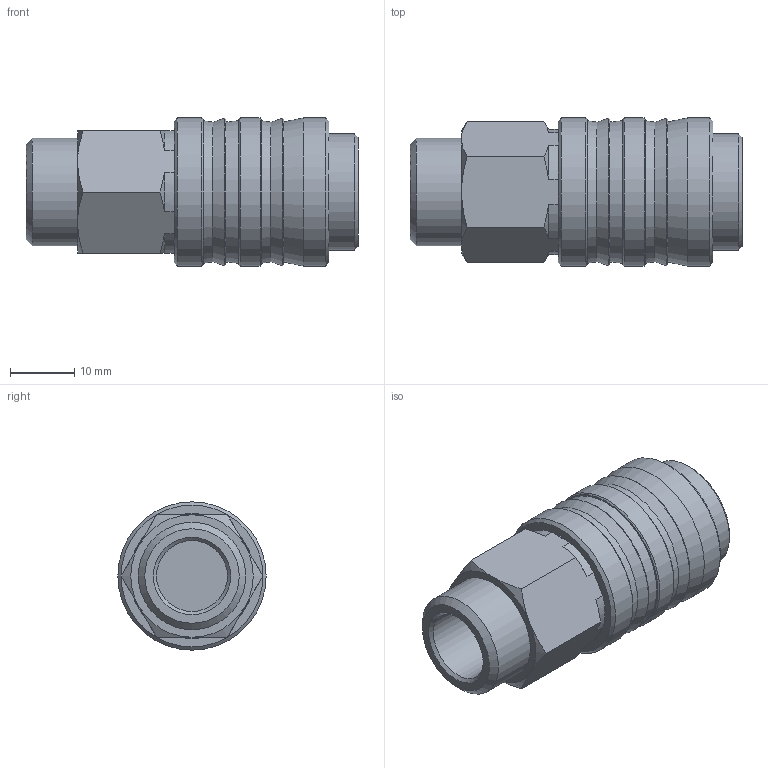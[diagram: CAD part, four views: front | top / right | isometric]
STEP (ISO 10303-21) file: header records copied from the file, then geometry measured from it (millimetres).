
FILE_DESCRIPTION(/* description */ (''),/* implementation_level */ '2;1');
FILE_NAME(/* name */ 'S:\_Tecnico\ArchivioUT\_Disegni3D ingombri\DISEGNI 3D per ingombri\GD\GD100038.stp',/* time_stamp */ '2020-11-19T08:40:55+01:00',/* author */ ('ufficiotecnico3'),/* organization */ (''),/* preprocessor_version */ 'ST-DEVELOPER v18',/* originating_system */ 'Autodesk Inventor 2020',/* authorisation */ '');
FILE_SCHEMA (('AUTOMOTIVE_DESIGN { 1 0 10303 214 3 1 1 }'));
Length unit declared in the file: millimetre
Products named in the file (1): GD100038
Bounding box: 51.5 x 23 x 23 mm (x, y, z)
Volume: 12339.8 mm3; surface area: 7940.4 mm2
Topology: 1 solids, 1 shells, 73 faces, 190 edges, 119 vertices
Faces by surface type: cone 29, plane 27, cylinder 17
Full cylindrical faces by diameter (mm): 10 x1, 11 x1, 12 x1, 16.662 x1, 18 x1, 18.4 x1, 19 x1, 19.4 x1, 23 x3
Entity records: 2311 total; most frequent: CARTESIAN_POINT 431, DIRECTION 422, ORIENTED_EDGE 380, EDGE_CURVE 190, AXIS2_PLACEMENT_3D 182, VERTEX_POINT 119, CIRCLE 108, EDGE_LOOP 86
